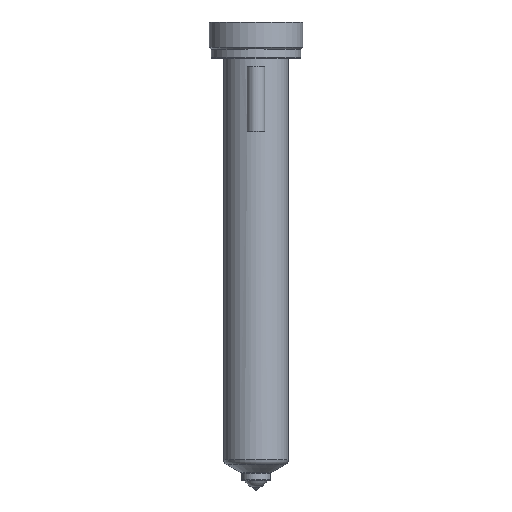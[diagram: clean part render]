
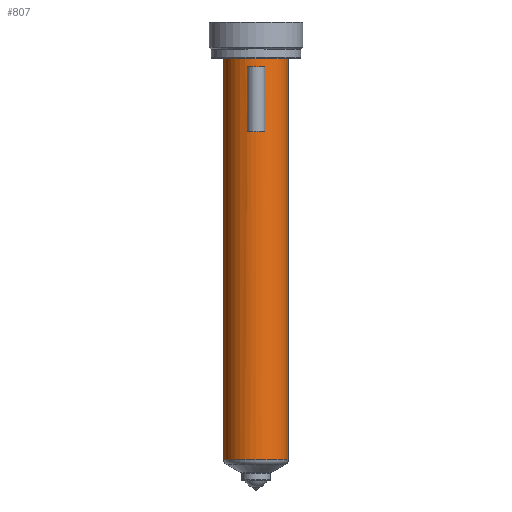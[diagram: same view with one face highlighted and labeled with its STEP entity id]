
A CAD part, top view. The second image highlights one B-rep face of the part: STEP entity #807.
In plain terms, the highlighted cylindrical face has radius 9 mm (diameter 18 mm), a partial arc.
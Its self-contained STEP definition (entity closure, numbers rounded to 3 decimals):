
#193=DIRECTION('',(0.,-1.,0.));
#194=VECTOR('',#193,111.544);
#195=CARTESIAN_POINT('',(9.,0.,0.));
#196=LINE('',#195,#194);
#197=CARTESIAN_POINT('',(0.,-111.544,0.));
#198=DIRECTION('',(0.,1.,0.));
#199=DIRECTION('',(-1.,0.,0.));
#200=AXIS2_PLACEMENT_3D('',#197,#198,#199);
#202=DIRECTION('',(0.,1.,0.));
#203=VECTOR('',#202,111.544);
#204=CARTESIAN_POINT('',(-9.,-111.544,0.));
#205=LINE('',#204,#203);
#206=CARTESIAN_POINT('',(0.,0.,0.));
#207=DIRECTION('',(0.,1.,0.));
#208=DIRECTION('',(-1.,0.,0.));
#209=AXIS2_PLACEMENT_3D('',#206,#207,#208);
#211=DIRECTION('',(0.,-1.,0.));
#212=VECTOR('',#211,18.);
#213=CARTESIAN_POINT('',(-2.5,-2.5,8.646));
#214=LINE('',#213,#212);
#215=DIRECTION('',(0.,1.,0.));
#216=VECTOR('',#215,18.);
#217=CARTESIAN_POINT('',(2.5,-20.5,8.646));
#218=LINE('',#217,#216);
#385=CARTESIAN_POINT('',(0.,-2.5,0.));
#386=DIRECTION('',(0.,-1.,0.));
#387=DIRECTION('',(0.278,0.,0.961));
#388=AXIS2_PLACEMENT_3D('',#385,#386,#387);
#403=CARTESIAN_POINT('',(0.,-20.5,0.));
#404=DIRECTION('',(0.,1.,0.));
#405=DIRECTION('',(-0.278,0.,0.961));
#406=AXIS2_PLACEMENT_3D('',#403,#404,#405);
#482=CARTESIAN_POINT('',(-9.,0.,0.));
#483=CARTESIAN_POINT('',(9.,0.,0.));
#484=VERTEX_POINT('',#482);
#485=VERTEX_POINT('',#483);
#494=CARTESIAN_POINT('',(-2.5,-2.5,8.646));
#495=VERTEX_POINT('',#494);
#496=CARTESIAN_POINT('',(2.5,-2.5,8.646));
#497=VERTEX_POINT('',#496);
#534=CARTESIAN_POINT('',(9.,-111.544,0.));
#535=VERTEX_POINT('',#534);
#544=CARTESIAN_POINT('',(-9.,-111.544,0.));
#545=VERTEX_POINT('',#544);
#566=CARTESIAN_POINT('',(-2.5,-20.5,8.646));
#567=CARTESIAN_POINT('',(2.5,-20.5,8.646));
#568=VERTEX_POINT('',#566);
#569=VERTEX_POINT('',#567);
#785=CARTESIAN_POINT('',(0.,11.15,0.));
#786=DIRECTION('',(0.,-1.,0.));
#787=DIRECTION('',(-1.,0.,0.));
#788=AXIS2_PLACEMENT_3D('',#785,#786,#787);
#789=CYLINDRICAL_SURFACE('',#788,9.);
#790=ORIENTED_EDGE('',*,*,#779,.T.);
#792=ORIENTED_EDGE('',*,*,#791,.F.);
#793=ORIENTED_EDGE('',*,*,#775,.T.);
#794=ORIENTED_EDGE('',*,*,#765,.T.);
#795=EDGE_LOOP('',(#790,#792,#793,#794));
#796=FACE_OUTER_BOUND('',#795,.F.);
#798=ORIENTED_EDGE('',*,*,#797,.T.);
#800=ORIENTED_EDGE('',*,*,#799,.T.);
#802=ORIENTED_EDGE('',*,*,#801,.T.);
#804=ORIENTED_EDGE('',*,*,#803,.T.);
#805=EDGE_LOOP('',(#798,#800,#802,#804));
#806=FACE_BOUND('',#805,.F.);
#807=ADVANCED_FACE('',(#796,#806),#789,.T.);
#201=CIRCLE('',#200,9.);
#210=CIRCLE('',#209,9.);
#389=CIRCLE('',#388,9.);
#407=CIRCLE('',#406,9.);
#765=EDGE_CURVE('',#484,#485,#210,.T.);
#775=EDGE_CURVE('',#545,#484,#205,.T.);
#779=EDGE_CURVE('',#485,#535,#196,.T.);
#791=EDGE_CURVE('',#545,#535,#201,.T.);
#797=EDGE_CURVE('',#495,#568,#214,.T.);
#799=EDGE_CURVE('',#568,#569,#407,.T.);
#801=EDGE_CURVE('',#569,#497,#218,.T.);
#803=EDGE_CURVE('',#497,#495,#389,.T.);
